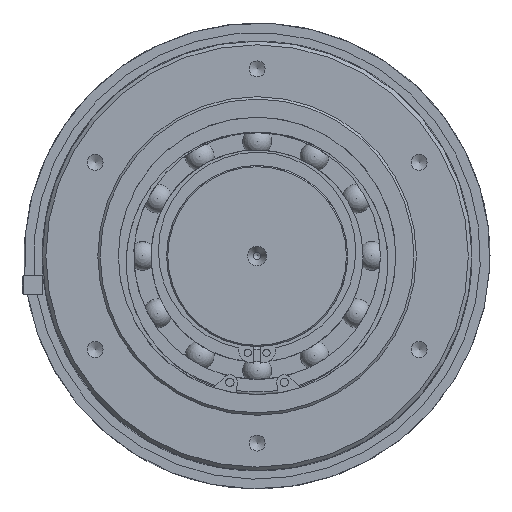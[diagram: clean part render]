
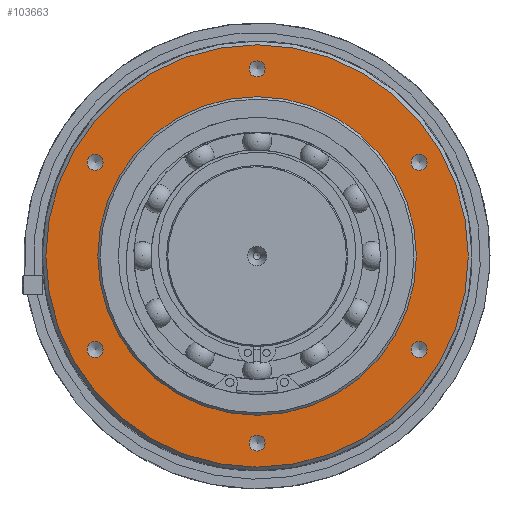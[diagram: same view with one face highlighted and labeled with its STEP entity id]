
A CAD part, left-side view. The second image highlights one B-rep face of the part: STEP entity #103663.
In plain terms, the highlighted planar face has unit normal (-1, 0, 0).
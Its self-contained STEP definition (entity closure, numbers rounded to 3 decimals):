
#103148=CARTESIAN_POINT('',(-41.5,67.117,-35.426));
#103149=VERTEX_POINT('',#103148);
#103150=CARTESIAN_POINT('',(-41.5,67.117,-38.75));
#103151=DIRECTION('',(1.0,0.0,0.0));
#103152=DIRECTION('',(0.0,0.0,1.0));
#103153=AXIS2_PLACEMENT_3D('',#103150,#103151,#103152);
#103154=CIRCLE('',#103153,3.324);
#103155=EDGE_CURVE('',#103149,#103149,#103154,.T.);
#103227=CARTESIAN_POINT('',(-41.5,67.117,42.074));
#103228=VERTEX_POINT('',#103227);
#103229=CARTESIAN_POINT('',(-41.5,67.117,38.75));
#103230=DIRECTION('',(1.0,0.0,0.0));
#103231=DIRECTION('',(0.0,0.0,1.0));
#103232=AXIS2_PLACEMENT_3D('',#103229,#103230,#103231);
#103233=CIRCLE('',#103232,3.324);
#103234=EDGE_CURVE('',#103228,#103228,#103233,.T.);
#103306=CARTESIAN_POINT('',(-41.5,0.,80.823));
#103307=VERTEX_POINT('',#103306);
#103308=CARTESIAN_POINT('',(-41.5,0.,77.5));
#103309=DIRECTION('',(1.0,0.0,0.0));
#103310=DIRECTION('',(0.0,0.0,1.0));
#103311=AXIS2_PLACEMENT_3D('',#103308,#103309,#103310);
#103312=CIRCLE('',#103311,3.324);
#103313=EDGE_CURVE('',#103307,#103307,#103312,.T.);
#103385=CARTESIAN_POINT('',(-41.5,-67.117,42.073));
#103386=VERTEX_POINT('',#103385);
#103387=CARTESIAN_POINT('',(-41.5,-67.117,38.75));
#103388=DIRECTION('',(1.0,0.0,0.0));
#103389=DIRECTION('',(0.0,0.0,1.0));
#103390=AXIS2_PLACEMENT_3D('',#103387,#103388,#103389);
#103391=CIRCLE('',#103390,3.324);
#103392=EDGE_CURVE('',#103386,#103386,#103391,.T.);
#103464=CARTESIAN_POINT('',(-41.5,-67.117,-35.427));
#103465=VERTEX_POINT('',#103464);
#103466=CARTESIAN_POINT('',(-41.5,-67.117,-38.75));
#103467=DIRECTION('',(1.0,0.0,0.0));
#103468=DIRECTION('',(0.0,0.0,1.0));
#103469=AXIS2_PLACEMENT_3D('',#103466,#103467,#103468);
#103470=CIRCLE('',#103469,3.324);
#103471=EDGE_CURVE('',#103465,#103465,#103470,.T.);
#103543=CARTESIAN_POINT('',(-41.5,0.,-74.176));
#103544=VERTEX_POINT('',#103543);
#103545=CARTESIAN_POINT('',(-41.5,0.,-77.5));
#103546=DIRECTION('',(1.0,0.0,0.0));
#103547=DIRECTION('',(0.0,0.0,1.0));
#103548=AXIS2_PLACEMENT_3D('',#103545,#103546,#103547);
#103549=CIRCLE('',#103548,3.324);
#103550=EDGE_CURVE('',#103544,#103544,#103549,.T.);
#103611=CARTESIAN_POINT('',(-41.5,66.0,0.0));
#103612=VERTEX_POINT('',#103611);
#103613=CARTESIAN_POINT('',(-41.5,0.0,0.0));
#103614=DIRECTION('',(1.0,0.0,0.0));
#103615=DIRECTION('',(0.0,1.0,0.0));
#103616=AXIS2_PLACEMENT_3D('',#103613,#103614,#103615);
#103617=CIRCLE('',#103616,66.0);
#103618=EDGE_CURVE('',#103612,#103612,#103617,.T.);
#103626=CARTESIAN_POINT('',(-41.5,76.75,0.0));
#103627=DIRECTION('',(-1.0,0.0,0.0));
#103628=DIRECTION('',(0.0,0.0,1.0));
#103629=AXIS2_PLACEMENT_3D('',#103626,#103627,#103628);
#103630=PLANE('',#103629);
#103631=CARTESIAN_POINT('',(-41.5,87.5,0.0));
#103632=VERTEX_POINT('',#103631);
#103633=CARTESIAN_POINT('',(-41.5,0.0,0.0));
#103634=DIRECTION('',(1.0,0.0,0.0));
#103635=DIRECTION('',(0.0,1.0,0.0));
#103636=AXIS2_PLACEMENT_3D('',#103633,#103634,#103635);
#103637=CIRCLE('',#103636,87.5);
#103638=EDGE_CURVE('',#103632,#103632,#103637,.T.);
#103639=ORIENTED_EDGE('',*,*,#103638,.F.);
#103640=EDGE_LOOP('',(#103639));
#103641=FACE_OUTER_BOUND('',#103640,.T.);
#103642=ORIENTED_EDGE('',*,*,#103155,.T.);
#103643=EDGE_LOOP('',(#103642));
#103644=FACE_BOUND('',#103643,.T.);
#103645=ORIENTED_EDGE('',*,*,#103234,.T.);
#103646=EDGE_LOOP('',(#103645));
#103647=FACE_BOUND('',#103646,.T.);
#103648=ORIENTED_EDGE('',*,*,#103313,.T.);
#103649=EDGE_LOOP('',(#103648));
#103650=FACE_BOUND('',#103649,.T.);
#103651=ORIENTED_EDGE('',*,*,#103392,.T.);
#103652=EDGE_LOOP('',(#103651));
#103653=FACE_BOUND('',#103652,.T.);
#103654=ORIENTED_EDGE('',*,*,#103471,.T.);
#103655=EDGE_LOOP('',(#103654));
#103656=FACE_BOUND('',#103655,.T.);
#103657=ORIENTED_EDGE('',*,*,#103550,.T.);
#103658=EDGE_LOOP('',(#103657));
#103659=FACE_BOUND('',#103658,.T.);
#103660=ORIENTED_EDGE('',*,*,#103618,.T.);
#103661=EDGE_LOOP('',(#103660));
#103662=FACE_BOUND('',#103661,.T.);
#103663=ADVANCED_FACE('',(#103641,#103644,#103647,#103650,#103653,#103656,#103659,#103662),#103630,.T.);
